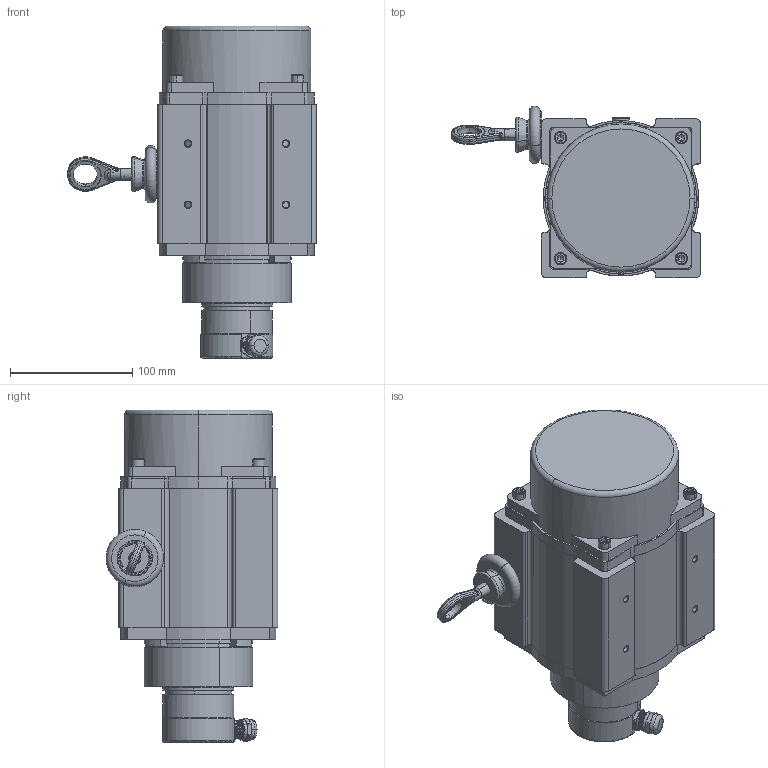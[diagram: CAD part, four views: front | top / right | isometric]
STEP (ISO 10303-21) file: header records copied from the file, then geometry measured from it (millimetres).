
FILE_DESCRIPTION (( 'STEP AP214' ), '1' );
FILE_NAME ('10米装配夹紧发兰5810编码器.step', '2025-04-20T14:44:32', ( '' ), ( '' ), 'SwSTEP 2.0', 'SolidWorks 2024', '' );
FILE_SCHEMA (( 'AUTOMOTIVE_DESIGN' ));
Length unit declared in the file: millimetre
Products named in the file (1): 10米装配夹紧发兰5810编码器
Bounding box: 203.5 x 140.48 x 271.5 mm (x, y, z)
Surface area: 385063.7 mm2 (no closed solid volume)
Topology: 0 solids, 372 shells, 1571 faces, 5029 edges, 3826 vertices
Faces by surface type: plane 655, cylinder 636, cone 168, bspline 76, torus 32, sphere 4
Entity records: 75891 total; most frequent: CARTESIAN_POINT 34785, ORIENTED_EDGE 8073, DIRECTION 7413, EDGE_CURVE 5004, VERTEX_POINT 3821, AXIS2_PLACEMENT_3D 2771, VECTOR 1871, LINE 1871
